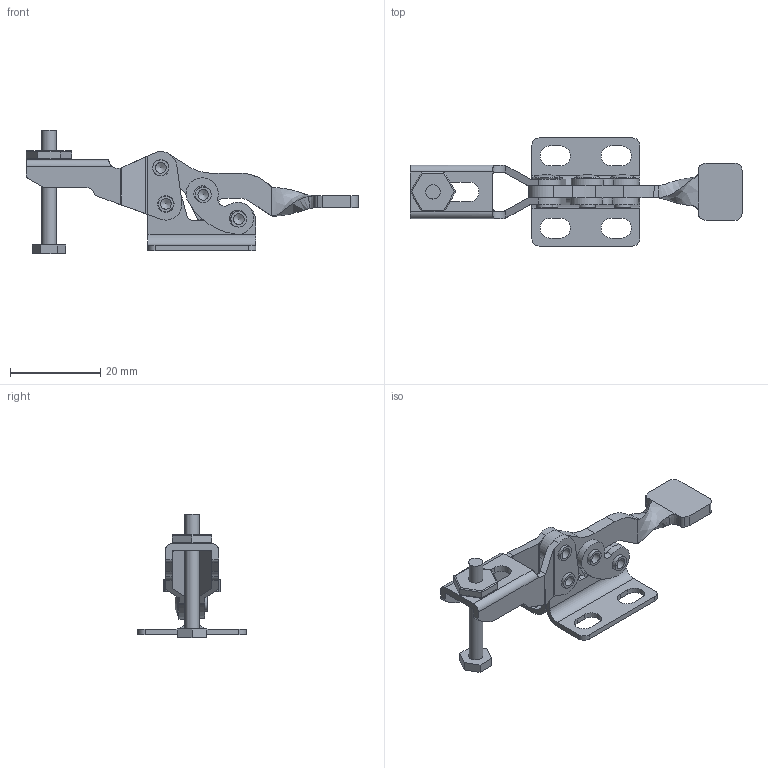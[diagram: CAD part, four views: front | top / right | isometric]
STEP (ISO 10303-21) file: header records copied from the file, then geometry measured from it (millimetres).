
FILE_DESCRIPTION(/* description */ (''),/* implementation_level */ '2;1');
FILE_NAME(/* name */ 'h-101',/* time_stamp */ '2004-12-16T11:04:27-05:00',/* author */ (''),/* organization */ (''),/* preprocessor_version */ 'ST-DEVELOPER v9',/* originating_system */ 'EDS PLM SOLUTIONS - UNIGRAPHICS NX 2.0',/* authorisation */ '');
FILE_SCHEMA (('AUTOMOTIVE_DESIGN { 1 0 10303 214 0 1 1 1 }'));
Length unit declared in the file: inch
Products named in the file (1): mfurAEE3to9n
Bounding box: 73.48 x 23.94 x 27.38 mm (x, y, z)
Volume: 3781.7 mm3; surface area: 6335 mm2
Topology: 12 solids, 12 shells, 246 faces, 622 edges, 408 vertices
Faces by surface type: cylinder 112, plane 108, bspline 10, torus 8, sphere 4, cone 4
Full cylindrical faces by diameter (mm): 2.381 x4, 3.175 x2, 3.48 x4, 3.581 x4, 3.632 x10
Entity records: 8167 total; most frequent: CARTESIAN_POINT 2153, DIRECTION 1239, ORIENTED_EDGE 1158, EDGE_CURVE 579, AXIS2_PLACEMENT_3D 464, VERTEX_POINT 402, EDGE_LOOP 331, LINE 311
